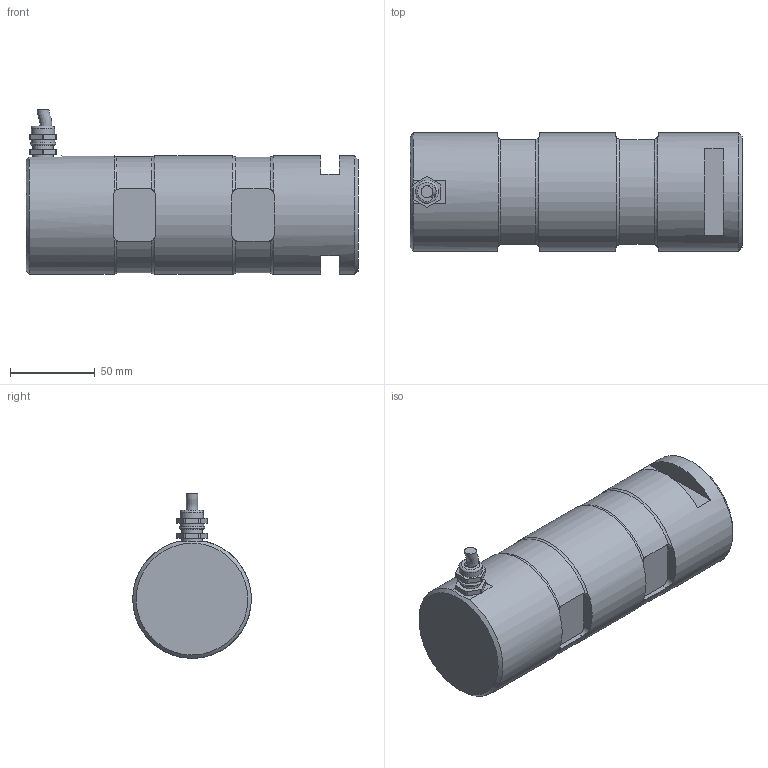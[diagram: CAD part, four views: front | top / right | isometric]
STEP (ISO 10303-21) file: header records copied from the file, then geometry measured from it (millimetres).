
FILE_DESCRIPTION(/* description */ ('Alibre Inc.'),/* implementation_level */ '2;1');
FILE_NAME(/* name */ 'export0',/* time_stamp */ '2011-09-20T13:04:18+02:00',/* author */ (''),/* organization */ (''),/* preprocessor_version */ 'ST-DEVELOPER v10',/* originating_system */ 'Alibre',/* authorisation */ '');
FILE_SCHEMA (('ALIBRE_SCHEMA','CONFIG_CONTROL_DESIGN'));
Length unit declared in the file: centimetre
Products named in the file (6): ID_1
Bounding box: 196 x 70 x 97.3 mm (x, y, z)
Volume: 725115.1 mm3; surface area: 57149.4 mm2
Topology: 4 solids, 4 shells, 110 faces, 280 edges, 184 vertices
Faces by surface type: plane 53, cylinder 43, torus 10, cone 3, bspline 1
Full cylindrical faces by diameter (mm): 7 x2, 7.4 x1, 10.376 x1, 12 x2, 13.7 x1, 14 x1, 70 x3
Entity records: 12468 total; most frequent: CARTESIAN_POINT 2649, PERSISTANTTOPOLOGYATTRIBUTE 921, DIRECTION 690, REFERENCEDEPENDENTUV 547, ORIENTED_EDGE 514, CONSTRAINTPAIRUV 504, VECTOR 365, REFERENCEPOINTUV 294
